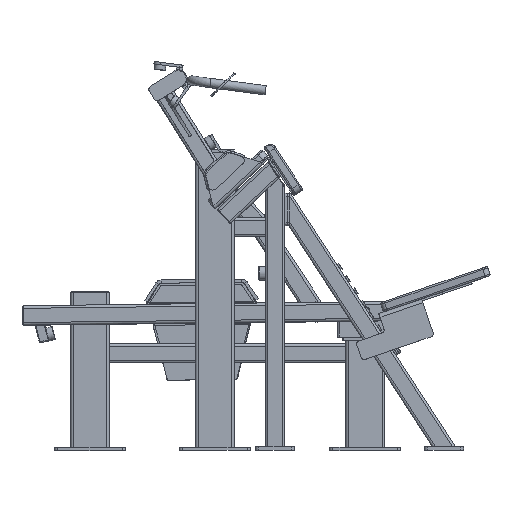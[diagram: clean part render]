
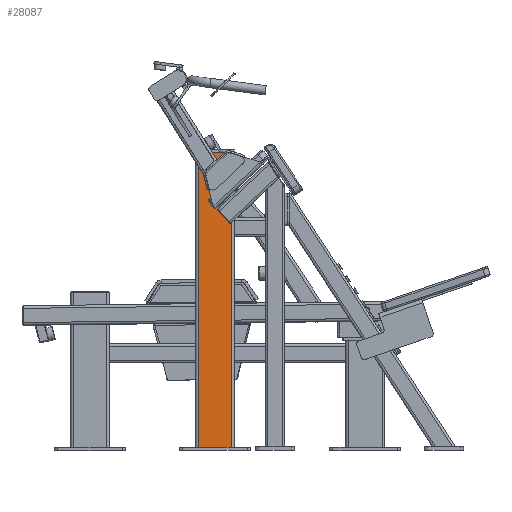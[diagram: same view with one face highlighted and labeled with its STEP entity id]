
A CAD part, top view. The second image highlights one B-rep face of the part: STEP entity #28087.
In plain terms, the highlighted planar face has unit normal (0, 0, 1).
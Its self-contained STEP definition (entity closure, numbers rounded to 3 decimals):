
#1704=PLANE('',#30910);
#3177=FACE_OUTER_BOUND('',#5001,.T.);
#5001=EDGE_LOOP('',(#24394,#24395,#24396,#24397));
#7314=LINE('',#65337,#9664);
#7321=LINE('',#65366,#9671);
#7333=LINE('',#65398,#9683);
#7334=LINE('',#65399,#9684);
#9664=VECTOR('',#38108,1000.);
#9671=VECTOR('',#38131,1000.);
#9683=VECTOR('',#38163,1000.);
#9684=VECTOR('',#38164,1000.);
#13350=VERTEX_POINT('',#65334);
#13351=VERTEX_POINT('',#65336);
#13364=VERTEX_POINT('',#65363);
#13365=VERTEX_POINT('',#65365);
#17098=EDGE_CURVE('',#13350,#13351,#7314,.T.);
#17112=EDGE_CURVE('',#13365,#13364,#7321,.T.);
#17130=EDGE_CURVE('',#13364,#13351,#7333,.T.);
#17131=EDGE_CURVE('',#13350,#13365,#7334,.T.);
#24394=ORIENTED_EDGE('',*,*,#17112,.T.);
#24395=ORIENTED_EDGE('',*,*,#17130,.T.);
#24396=ORIENTED_EDGE('',*,*,#17098,.F.);
#24397=ORIENTED_EDGE('',*,*,#17131,.T.);
#28087=ADVANCED_FACE('',(#3177),#1704,.F.);
#30910=AXIS2_PLACEMENT_3D('',#65397,#38161,#38162);
#38108=DIRECTION('',(1.,0.,0.));
#38131=DIRECTION('',(1.,0.,0.));
#38161=DIRECTION('center_axis',(0.,0.,-1.));
#38162=DIRECTION('ref_axis',(-1.,0.,0.));
#38163=DIRECTION('',(0.,1.,0.));
#38164=DIRECTION('',(0.,-1.,0.));
#65334=CARTESIAN_POINT('',(-138.,358.245,485.304));
#65336=CARTESIAN_POINT('',(-34.,358.245,485.304));
#65337=CARTESIAN_POINT('',(-146.,358.245,485.304));
#65363=CARTESIAN_POINT('',(-34.,-552.755,485.304));
#65365=CARTESIAN_POINT('',(-138.,-552.755,485.304));
#65366=CARTESIAN_POINT('',(-146.,-552.755,485.304));
#65397=CARTESIAN_POINT('Origin',(-146.,358.245,485.304));
#65398=CARTESIAN_POINT('',(-34.,358.245,485.304));
#65399=CARTESIAN_POINT('',(-138.,358.245,485.304));
